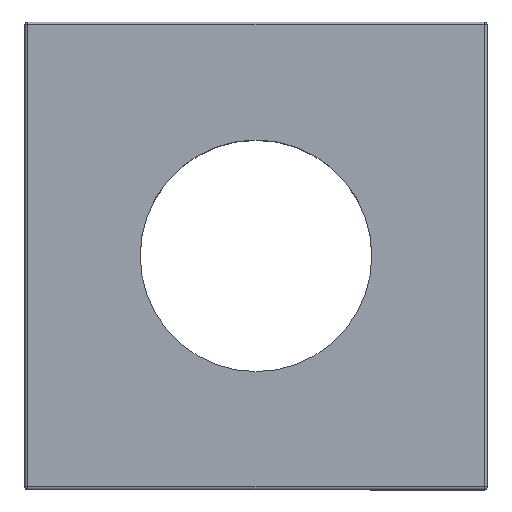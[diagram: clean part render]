
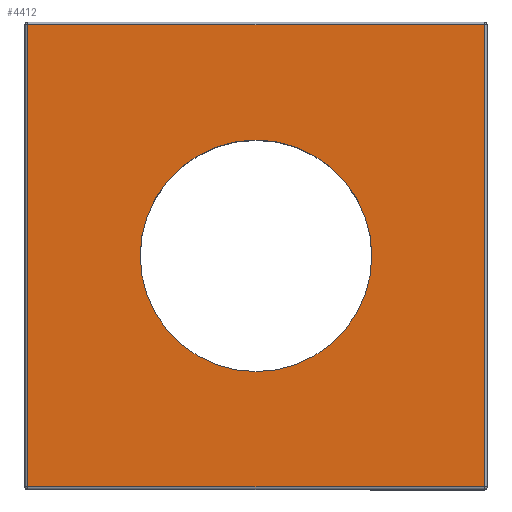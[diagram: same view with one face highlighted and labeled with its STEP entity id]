
A CAD part, top view. The second image highlights one B-rep face of the part: STEP entity #4412.
In plain terms, the highlighted planar face has unit normal (0, 0, 1).
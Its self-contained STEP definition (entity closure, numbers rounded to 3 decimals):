
#54 = ORIENTED_EDGE ( 'NONE', *, *, #243, .F. ) ;
#115 = ORIENTED_EDGE ( 'NONE', *, *, #739, .F. ) ;
#165 = CIRCLE ( 'NONE', #5833, 10.4 ) ;
#243 = EDGE_CURVE ( 'NONE', #2939, #4805, #165, .T. ) ;
#484 = CARTESIAN_POINT ( 'NONE',  ( 2293.542, -635.856, 0. ) ) ;
#493 = CARTESIAN_POINT ( 'NONE',  ( 2303.642, -656.606, 0. ) ) ;
#520 = CARTESIAN_POINT ( 'NONE',  ( 2262.642, -656.606, 0. ) ) ;
#739 = EDGE_CURVE ( 'NONE', #3888, #882, #3742, .T. ) ;
#882 = VERTEX_POINT ( 'NONE', #3832 ) ;
#1225 = FACE_OUTER_BOUND ( 'NONE', #5786, .T. ) ;
#1227 = LINE ( 'NONE', #4002, #5027 ) ;
#1296 = EDGE_CURVE ( 'NONE', #4805, #2939, #5923, .T. ) ;
#1350 = ORIENTED_EDGE ( 'NONE', *, *, #2593, .F. ) ;
#1529 = VECTOR ( 'NONE', #6090, 1000. ) ;
#1579 = CARTESIAN_POINT ( 'NONE',  ( 2283.142, -615.106, 0. ) ) ;
#1586 = VERTEX_POINT ( 'NONE', #520 ) ;
#1628 = CARTESIAN_POINT ( 'NONE',  ( 2303.642, -635.856, 0. ) ) ;
#1736 = ORIENTED_EDGE ( 'NONE', *, *, #1296, .F. ) ;
#2135 = CARTESIAN_POINT ( 'NONE',  ( 2272.742, -635.856, 0. ) ) ;
#2184 = EDGE_LOOP ( 'NONE', ( #54, #1736 ) ) ;
#2319 = CARTESIAN_POINT ( 'NONE',  ( 2283.142, -635.856, 0. ) ) ;
#2432 = VECTOR ( 'NONE', #5529, 1000. ) ;
#2452 = VERTEX_POINT ( 'NONE', #493 ) ;
#2593 = EDGE_CURVE ( 'NONE', #1586, #3888, #5827, .T. ) ;
#2756 = DIRECTION ( 'NONE',  ( 0., 0., 1. ) ) ;
#2791 = CARTESIAN_POINT ( 'NONE',  ( 2262.642, -615.106, 0. ) ) ;
#2796 = DIRECTION ( 'NONE',  ( 1., 0., 0. ) ) ;
#2883 = DIRECTION ( 'NONE',  ( 1., 0., 0. ) ) ;
#2934 = CARTESIAN_POINT ( 'NONE',  ( 2283.142, -635.856, 0. ) ) ;
#2939 = VERTEX_POINT ( 'NONE', #484 ) ;
#3075 = ORIENTED_EDGE ( 'NONE', *, *, #5148, .F. ) ;
#3100 = FACE_BOUND ( 'NONE', #2184, .T. ) ;
#3456 = PLANE ( 'NONE',  #4824 ) ;
#3742 = LINE ( 'NONE', #1579, #2432 ) ;
#3832 = CARTESIAN_POINT ( 'NONE',  ( 2303.642, -615.106, 0. ) ) ;
#3888 = VERTEX_POINT ( 'NONE', #2791 ) ;
#3957 = CARTESIAN_POINT ( 'NONE',  ( 2283.142, -635.856, 0. ) ) ;
#4002 = CARTESIAN_POINT ( 'NONE',  ( 2283.142, -656.606, 0. ) ) ;
#4050 = DIRECTION ( 'NONE',  ( -1., 0., 0. ) ) ;
#4329 = LINE ( 'NONE', #1628, #1529 ) ;
#4412 = ADVANCED_FACE ( 'NONE', ( #1225, #3100 ), #3456, .F. ) ;
#4439 = VECTOR ( 'NONE', #6164, 1000. ) ;
#4468 = DIRECTION ( 'NONE',  ( 0., 0., 1. ) ) ;
#4805 = VERTEX_POINT ( 'NONE', #2135 ) ;
#4824 = AXIS2_PLACEMENT_3D ( 'NONE', #2934, #5465, #5416 ) ;
#5027 = VECTOR ( 'NONE', #4050, 1000. ) ;
#5148 = EDGE_CURVE ( 'NONE', #2452, #1586, #1227, .T. ) ;
#5416 = DIRECTION ( 'NONE',  ( -1., 0., 0. ) ) ;
#5465 = DIRECTION ( 'NONE',  ( 0., 0., -1. ) ) ;
#5529 = DIRECTION ( 'NONE',  ( 1., 0., 0. ) ) ;
#5644 = CARTESIAN_POINT ( 'NONE',  ( 2262.642, -635.856, 0. ) ) ;
#5786 = EDGE_LOOP ( 'NONE', ( #6398, #115, #1350, #3075 ) ) ;
#5827 = LINE ( 'NONE', #5644, #4439 ) ;
#5833 = AXIS2_PLACEMENT_3D ( 'NONE', #2319, #2756, #2796 ) ;
#5923 = CIRCLE ( 'NONE', #5981, 10.4 ) ;
#5981 = AXIS2_PLACEMENT_3D ( 'NONE', #3957, #4468, #2883 ) ;
#6090 = DIRECTION ( 'NONE',  ( 0., -1., 0. ) ) ;
#6164 = DIRECTION ( 'NONE',  ( 0., 1., 0. ) ) ;
#6304 = EDGE_CURVE ( 'NONE', #882, #2452, #4329, .T. ) ;
#6398 = ORIENTED_EDGE ( 'NONE', *, *, #6304, .F. ) ;
